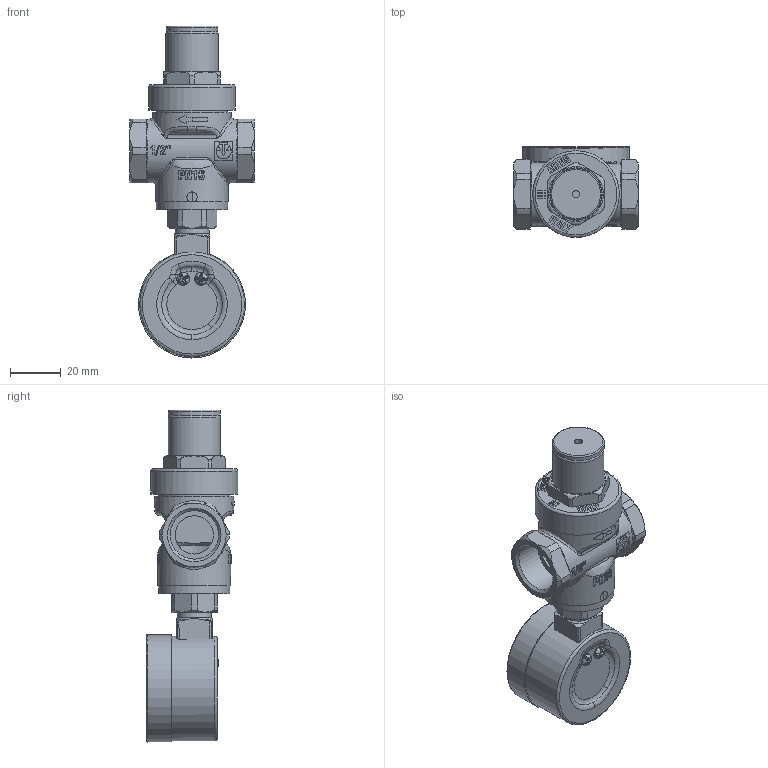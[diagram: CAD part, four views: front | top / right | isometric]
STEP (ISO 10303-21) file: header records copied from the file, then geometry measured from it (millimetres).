
FILE_DESCRIPTION(('TFLEX Exchange Step'),'2;1');
FILE_NAME('Pressure reducing valve 1_2 VT.088.N.0455 Valtec.stp', '2023-09-12T11:41:34+03:00',('denis'),('Unknown organisation'),'TFLEX Exchange 2023.0','T-FLEX CAD','Unknown authorisation');
FILE_SCHEMA( ('AUTOMOTIVE_DESIGN { 1 0 10303 214 1 1 1 1 }') );
Length unit declared in the file: millimetre
Products named in the file (1): Nodes
Bounding box: 49 x 35.79 x 130.24 mm (x, y, z)
Volume: 32916.2 mm3; surface area: 35777.9 mm2
Topology: 48 solids, 48 shells, 1905 faces, 5195 edges, 3410 vertices
Faces by surface type: plane 946, bspline 444, cylinder 394, torus 55, sphere 33, cone 33
Full cylindrical faces by diameter (mm): 1 x2, 1.49 x2, 2 x4, 2.05 x1, 2.5 x2, 2.7 x2, 3 x2, 3.3 x1, 4 x1, 4.5 x1, 5 x2, 5.8 x1, 8 x1, 9.5 x1, 11 x1, 11.5 x1, 12 x1, 15 x4, 19 x2, 20.3 x1, 20.5 x1, 22.5 x1, 24.5 x1, 25 x1, 27.8 x1, 28 x2, 28.5 x1, 31 x1, 34 x1, 38 x1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
Entity records: 76079 total; most frequent: CARTESIAN_POINT 30666, ORIENTED_EDGE 10316, DIRECTION 7861, EDGE_CURVE 5158, VERTEX_POINT 3406, VECTOR 2961, LINE 2961, AXIS2_PLACEMENT_3D 2450
